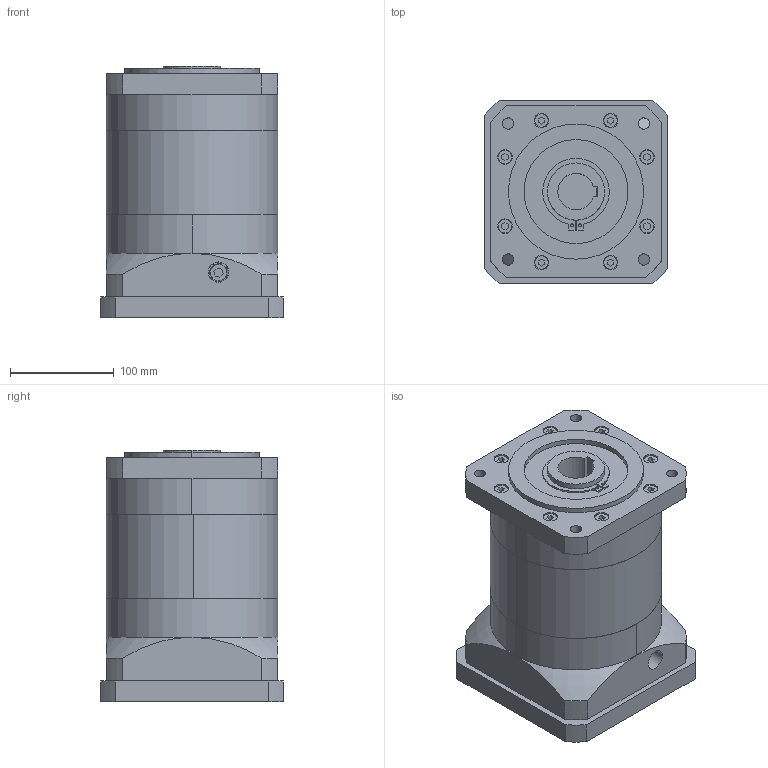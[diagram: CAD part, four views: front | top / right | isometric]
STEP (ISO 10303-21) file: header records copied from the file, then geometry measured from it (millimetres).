
FILE_DESCRIPTION (( 'STEP AP203' ), '1' );
FILE_NAME ('PBF160-L2-35-114.3-200.STEP', '2022-07-21T09:48:51', ( 'Windows User' ), ( 'P R C' ), 'SwSTEP 2.0', 'SolidWorks 2016', '' );
FILE_SCHEMA (( 'CONFIG_CONTROL_DESIGN' ));
Length unit declared in the file: millimetre
Products named in the file (7): GB／T70．1-2000内六角圆柱头螺钉M10×35; PBF160-蟀諉啣_2; PBF160內齿圈-孔输出_二级内齿圈; PBF160-L2-35-114.3-200; PBF160奻屳唳-謂35-B10; GB／T276-94深沟球轴承6011-2RZ; PBF160-帣釱-LR66
Assembly tree (7 placements, depth 2):
  PBF160-L2-35-114.3-200
    GB／T70．1-2000内六角圆柱头螺钉M10×35  x2
    PBF160內齿圈-孔输出_二级内齿圈
    PBF160奻屳唳-謂35-B10
    GB／T276-94深沟球轴承6011-2RZ
    PBF160-帣釱-LR66
    PBF160-蟀諉啣_2
Bounding box: 176 x 176 x 242 mm (x, y, z)
Volume: 4801736.6 mm3; surface area: 465762.7 mm2
Topology: 7 solids, 15 shells, 1180 faces, 3152 edges, 2078 vertices
Faces by surface type: plane 634, cylinder 221, bspline 170, sphere 83, torus 56, cone 16
Entity records: 47984 total; most frequent: CARTESIAN_POINT 19470, ORIENTED_EDGE 6122, DIRECTION 5156, EDGE_CURVE 3061, VERTEX_POINT 2024, AXIS2_PLACEMENT_3D 1798, VECTOR 1560, LINE 1560
